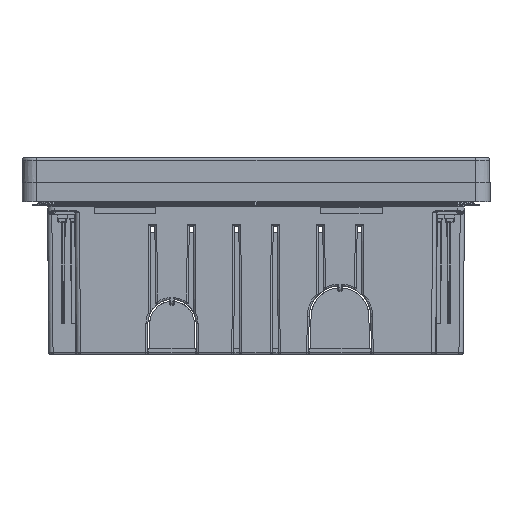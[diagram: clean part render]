
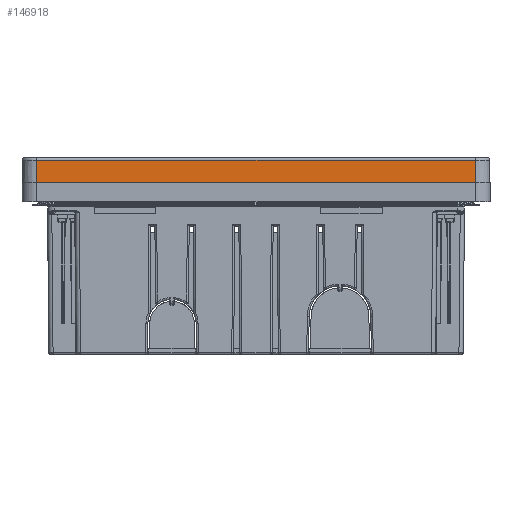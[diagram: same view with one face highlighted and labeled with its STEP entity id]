
A CAD part, left-side view. The second image highlights one B-rep face of the part: STEP entity #146918.
In plain terms, the highlighted planar face has unit normal (-1, 0, 0.009) as drawn and (-1, 0.009, 0) by its records, which use the part's own axes.
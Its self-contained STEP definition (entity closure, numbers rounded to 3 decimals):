
#6218 = FACE_OUTER_BOUND ( 'NONE', #147192, .T. ) ;
#8573 = CARTESIAN_POINT ( 'NONE',  ( -208.11, 10.3, 113.5 ) ) ;
#9578 = EDGE_CURVE ( 'NONE', #160938, #189595, #103709, .T. ) ;
#11554 = DIRECTION ( 'NONE',  ( 0.009, 1., 0. ) ) ;
#25219 = DIRECTION ( 'NONE',  ( 0., 0., 1. ) ) ;
#34359 = EDGE_CURVE ( 'NONE', #189595, #119480, #118205, .T. ) ;
#36614 = PLANE ( 'NONE',  #69384 ) ;
#41218 = DIRECTION ( 'NONE',  ( 0., 0., 1. ) ) ;
#46302 = VECTOR ( 'NONE', #41218, 1000. ) ;
#47231 = ORIENTED_EDGE ( 'NONE', *, *, #34359, .F. ) ;
#49831 = CARTESIAN_POINT ( 'NONE',  ( -207.999, 23., -113.5 ) ) ;
#52648 = CARTESIAN_POINT ( 'NONE',  ( -208.11, 10.3, -113.5 ) ) ;
#56989 = VECTOR ( 'NONE', #25219, 1000. ) ;
#58123 = CARTESIAN_POINT ( 'NONE',  ( -208.2, 0., -113.5 ) ) ;
#63660 = VERTEX_POINT ( 'NONE', #8573 ) ;
#64992 = DIRECTION ( 'NONE',  ( 1., -0.009, 0. ) ) ;
#67850 = ORIENTED_EDGE ( 'NONE', *, *, #9578, .F. ) ;
#69260 = CARTESIAN_POINT ( 'NONE',  ( -208.011, 21.711, -113.5 ) ) ;
#69384 = AXIS2_PLACEMENT_3D ( 'NONE', #49831, #64992, #143014 ) ;
#77687 = ORIENTED_EDGE ( 'NONE', *, *, #112819, .F. ) ;
#80530 = DIRECTION ( 'NONE',  ( -0.009, -1., 0. ) ) ;
#87609 = CARTESIAN_POINT ( 'NONE',  ( -208.11, 10.3, -113.5 ) ) ;
#91655 = ORIENTED_EDGE ( 'NONE', *, *, #130389, .T. ) ;
#103709 = LINE ( 'NONE', #58123, #174652 ) ;
#112819 = EDGE_CURVE ( 'NONE', #119480, #63660, #185980, .T. ) ;
#118205 = LINE ( 'NONE', #195282, #46302 ) ;
#119480 = VERTEX_POINT ( 'NONE', #189699 ) ;
#130389 = EDGE_CURVE ( 'NONE', #160938, #63660, #178248, .T. ) ;
#143014 = DIRECTION ( 'NONE',  ( 0., 0., -1. ) ) ;
#146918 = ADVANCED_FACE ( 'NONE', ( #6218 ), #36614, .F. ) ;
#147192 = EDGE_LOOP ( 'NONE', ( #67850, #91655, #77687, #47231 ) ) ;
#160938 = VERTEX_POINT ( 'NONE', #87609 ) ;
#172742 = CARTESIAN_POINT ( 'NONE',  ( -208.011, 21.711, 113.5 ) ) ;
#174652 = VECTOR ( 'NONE', #11554, 1000. ) ;
#178248 = LINE ( 'NONE', #52648, #56989 ) ;
#185980 = LINE ( 'NONE', #172742, #193233 ) ;
#189595 = VERTEX_POINT ( 'NONE', #69260 ) ;
#189699 = CARTESIAN_POINT ( 'NONE',  ( -208.011, 21.711, 113.5 ) ) ;
#193233 = VECTOR ( 'NONE', #80530, 1000. ) ;
#195282 = CARTESIAN_POINT ( 'NONE',  ( -208.011, 21.711, -113.5 ) ) ;
